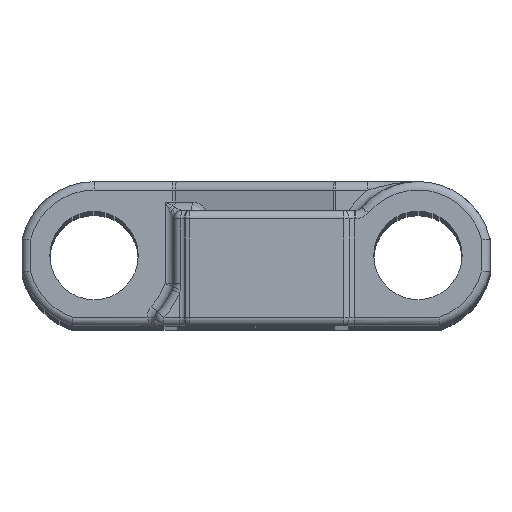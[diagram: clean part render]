
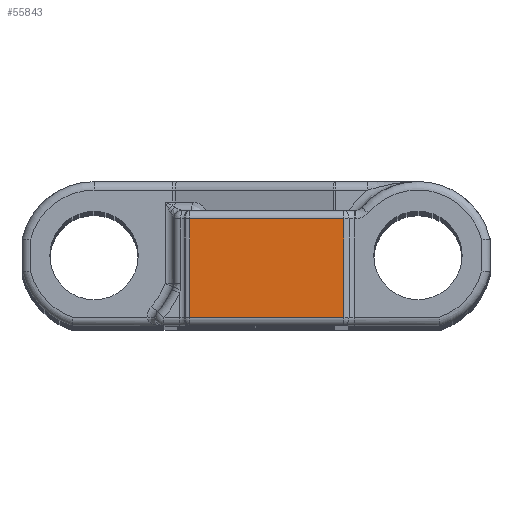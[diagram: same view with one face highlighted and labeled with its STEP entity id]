
A CAD part, top view. The second image highlights one B-rep face of the part: STEP entity #55843.
In plain terms, the highlighted planar face has unit normal (0, 0, 1).
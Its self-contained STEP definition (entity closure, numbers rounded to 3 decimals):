
#16322=DIRECTION('',(1.,0.,0.));
#16323=VECTOR('',#16322,9.067);
#16324=CARTESIAN_POINT('',(-3.892,-3.65,76.2));
#16325=LINE('',#16324,#16323);
#16326=DIRECTION('',(0.,-1.,0.));
#16327=VECTOR('',#16326,5.8);
#16328=CARTESIAN_POINT('',(-3.892,2.15,76.2));
#16329=LINE('',#16328,#16327);
#16330=DIRECTION('',(-1.,0.,0.));
#16331=VECTOR('',#16330,9.067);
#16332=CARTESIAN_POINT('',(5.175,2.15,76.2));
#16333=LINE('',#16332,#16331);
#16334=DIRECTION('',(0.,-1.,0.));
#16335=VECTOR('',#16334,5.8);
#16336=CARTESIAN_POINT('',(5.175,2.15,76.2));
#16337=LINE('',#16336,#16335);
#31287=CARTESIAN_POINT('',(5.175,-3.65,76.2));
#31288=VERTEX_POINT('',#31287);
#31289=CARTESIAN_POINT('',(-3.892,-3.65,76.2));
#31290=VERTEX_POINT('',#31289);
#31319=CARTESIAN_POINT('',(5.175,2.15,76.2));
#31320=VERTEX_POINT('',#31319);
#31325=CARTESIAN_POINT('',(-3.892,2.15,76.2));
#31326=VERTEX_POINT('',#31325);
#55829=CARTESIAN_POINT('',(-4.043,-4.15,76.2));
#55830=DIRECTION('',(0.,0.,1.));
#55831=DIRECTION('',(1.,0.,0.));
#55832=AXIS2_PLACEMENT_3D('',#55829,#55830,#55831);
#55833=PLANE('',#55832);
#55835=ORIENTED_EDGE('',*,*,#55834,.F.);
#55837=ORIENTED_EDGE('',*,*,#55836,.F.);
#55839=ORIENTED_EDGE('',*,*,#55838,.F.);
#55840=ORIENTED_EDGE('',*,*,#55821,.T.);
#55841=EDGE_LOOP('',(#55835,#55837,#55839,#55840));
#55842=FACE_OUTER_BOUND('',#55841,.F.);
#55821=EDGE_CURVE('',#31320,#31288,#16337,.T.);
#55834=EDGE_CURVE('',#31290,#31288,#16325,.T.);
#55836=EDGE_CURVE('',#31326,#31290,#16329,.T.);
#55838=EDGE_CURVE('',#31320,#31326,#16333,.T.);
#55843=ADVANCED_FACE('',(#55842),#55833,.T.);
